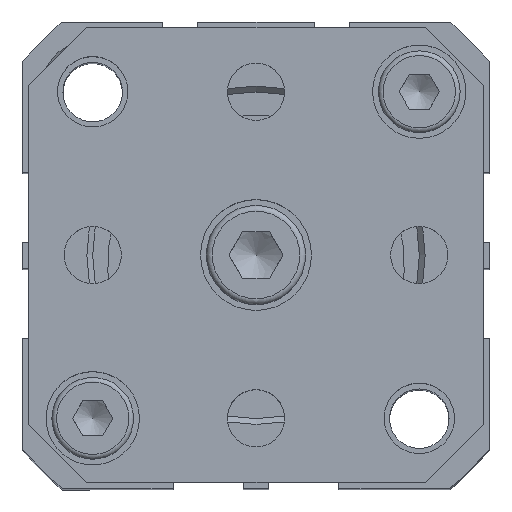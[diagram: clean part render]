
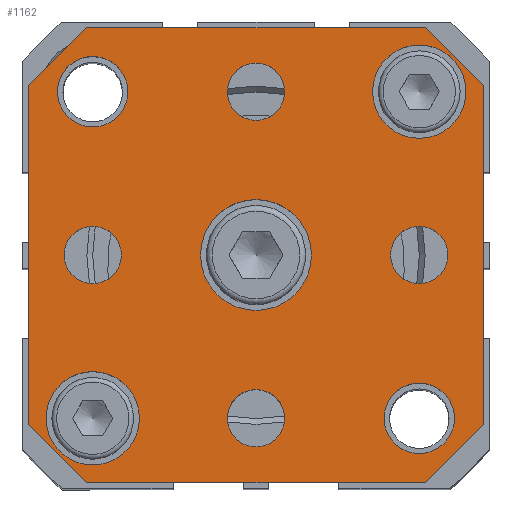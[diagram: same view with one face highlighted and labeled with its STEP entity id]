
A CAD part, top view. The second image highlights one B-rep face of the part: STEP entity #1162.
In plain terms, the highlighted planar face has unit normal (0, 0, 1).
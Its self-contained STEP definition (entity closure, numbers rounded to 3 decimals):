
#464=CARTESIAN_POINT('',(-12.524,-11.716,85.2));
#465=VERTEX_POINT('',#464);
#466=CARTESIAN_POINT('',(-16.524,-11.716,85.2));
#467=DIRECTION('',(0.0,0.0,-1.0));
#468=DIRECTION('',(1.0,0.0,0.0));
#469=AXIS2_PLACEMENT_3D('',#466,#467,#468);
#470=CIRCLE('',#469,4.0);
#471=EDGE_CURVE('',#465,#465,#470,.T.);
#566=CARTESIAN_POINT('',(15.476,16.284,85.2));
#567=VERTEX_POINT('',#566);
#568=CARTESIAN_POINT('',(11.476,16.284,85.2));
#569=DIRECTION('',(0.0,0.0,-1.0));
#570=DIRECTION('',(1.0,0.0,0.0));
#571=AXIS2_PLACEMENT_3D('',#568,#569,#570);
#572=CIRCLE('',#571,4.0);
#573=EDGE_CURVE('',#567,#567,#572,.T.);
#651=CARTESIAN_POINT('',(13.934,2.284,85.2));
#652=VERTEX_POINT('',#651);
#653=CARTESIAN_POINT('',(11.476,2.284,85.2));
#654=DIRECTION('',(0.0,0.0,-1.0));
#655=DIRECTION('',(1.0,0.0,0.0));
#656=AXIS2_PLACEMENT_3D('',#653,#654,#655);
#657=CIRCLE('',#656,2.459);
#658=EDGE_CURVE('',#652,#652,#657,.T.);
#692=CARTESIAN_POINT('',(-0.066,-11.716,85.2));
#693=VERTEX_POINT('',#692);
#694=CARTESIAN_POINT('',(-2.524,-11.716,85.2));
#695=DIRECTION('',(0.0,0.0,-1.0));
#696=DIRECTION('',(1.0,0.0,0.0));
#697=AXIS2_PLACEMENT_3D('',#694,#695,#696);
#698=CIRCLE('',#697,2.459);
#699=EDGE_CURVE('',#693,#693,#698,.T.);
#733=CARTESIAN_POINT('',(-14.066,2.284,85.2));
#734=VERTEX_POINT('',#733);
#735=CARTESIAN_POINT('',(-16.524,2.284,85.2));
#736=DIRECTION('',(0.0,0.0,-1.0));
#737=DIRECTION('',(1.0,0.0,0.0));
#738=AXIS2_PLACEMENT_3D('',#735,#736,#737);
#739=CIRCLE('',#738,2.459);
#740=EDGE_CURVE('',#734,#734,#739,.T.);
#774=CARTESIAN_POINT('',(-0.066,16.284,85.2));
#775=VERTEX_POINT('',#774);
#776=CARTESIAN_POINT('',(-2.524,16.284,85.2));
#777=DIRECTION('',(0.0,0.0,-1.0));
#778=DIRECTION('',(1.0,0.0,0.0));
#779=AXIS2_PLACEMENT_3D('',#776,#777,#778);
#780=CIRCLE('',#779,2.459);
#781=EDGE_CURVE('',#775,#775,#780,.T.);
#840=CARTESIAN_POINT('',(2.226,2.284,85.2));
#841=VERTEX_POINT('',#840);
#842=CARTESIAN_POINT('',(-2.524,2.284,85.2));
#843=DIRECTION('',(0.0,0.0,-1.0));
#844=DIRECTION('',(1.0,0.0,0.0));
#845=AXIS2_PLACEMENT_3D('',#842,#843,#844);
#846=CIRCLE('',#845,4.75);
#847=EDGE_CURVE('',#841,#841,#846,.T.);
#893=CARTESIAN_POINT('',(14.495,-11.716,85.2));
#894=VERTEX_POINT('',#893);
#895=CARTESIAN_POINT('',(11.476,-11.716,85.2));
#896=DIRECTION('',(0.0,0.0,-1.0));
#897=DIRECTION('',(-1.0,0.0,0.0));
#898=AXIS2_PLACEMENT_3D('',#895,#896,#897);
#899=CIRCLE('',#898,3.019);
#900=EDGE_CURVE('',#894,#894,#899,.T.);
#913=CARTESIAN_POINT('',(-13.505,16.284,85.2));
#914=VERTEX_POINT('',#913);
#915=CARTESIAN_POINT('',(-16.524,16.284,85.2));
#916=DIRECTION('',(0.0,0.0,-1.0));
#917=DIRECTION('',(-1.0,0.0,0.0));
#918=AXIS2_PLACEMENT_3D('',#915,#916,#917);
#919=CIRCLE('',#918,3.019);
#920=EDGE_CURVE('',#914,#914,#919,.T.);
#933=CARTESIAN_POINT('',(-17.024,21.784,85.2));
#934=VERTEX_POINT('',#933);
#935=CARTESIAN_POINT('',(11.976,21.784,85.2));
#936=VERTEX_POINT('',#935);
#937=CARTESIAN_POINT('',(-17.024,21.784,85.2));
#938=DIRECTION('',(1.0,0.0,0.0));
#939=VECTOR('',#938,29.);
#940=LINE('',#937,#939);
#941=EDGE_CURVE('',#934,#936,#940,.T.);
#964=CARTESIAN_POINT('',(16.976,16.784,85.2));
#965=VERTEX_POINT('',#964);
#966=CARTESIAN_POINT('',(11.976,21.784,85.2));
#967=DIRECTION('',(0.707,-0.707,0.0));
#968=VECTOR('',#967,7.071);
#969=LINE('',#966,#968);
#970=EDGE_CURVE('',#936,#965,#969,.T.);
#988=CARTESIAN_POINT('',(16.976,-12.216,85.2));
#989=VERTEX_POINT('',#988);
#990=CARTESIAN_POINT('',(16.976,16.784,85.2));
#991=DIRECTION('',(0.0,-1.0,0.0));
#992=VECTOR('',#991,29.);
#993=LINE('',#990,#992);
#994=EDGE_CURVE('',#965,#989,#993,.T.);
#1012=CARTESIAN_POINT('',(11.976,-17.216,85.2));
#1013=VERTEX_POINT('',#1012);
#1014=CARTESIAN_POINT('',(16.976,-12.216,85.2));
#1015=DIRECTION('',(-0.707,-0.707,0.0));
#1016=VECTOR('',#1015,7.071);
#1017=LINE('',#1014,#1016);
#1018=EDGE_CURVE('',#989,#1013,#1017,.T.);
#1036=CARTESIAN_POINT('',(-17.024,-17.216,85.2));
#1037=VERTEX_POINT('',#1036);
#1038=CARTESIAN_POINT('',(11.976,-17.216,85.2));
#1039=DIRECTION('',(-1.0,0.0,0.0));
#1040=VECTOR('',#1039,29.);
#1041=LINE('',#1038,#1040);
#1042=EDGE_CURVE('',#1013,#1037,#1041,.T.);
#1060=CARTESIAN_POINT('',(-22.024,-12.216,85.2));
#1061=VERTEX_POINT('',#1060);
#1062=CARTESIAN_POINT('',(-17.024,-17.216,85.2));
#1063=DIRECTION('',(-0.707,0.707,0.0));
#1064=VECTOR('',#1063,7.071);
#1065=LINE('',#1062,#1064);
#1066=EDGE_CURVE('',#1037,#1061,#1065,.T.);
#1084=CARTESIAN_POINT('',(-22.024,16.784,85.2));
#1085=VERTEX_POINT('',#1084);
#1086=CARTESIAN_POINT('',(-22.024,-12.216,85.2));
#1087=DIRECTION('',(0.0,1.0,0.0));
#1088=VECTOR('',#1087,29.);
#1089=LINE('',#1086,#1088);
#1090=EDGE_CURVE('',#1061,#1085,#1089,.T.);
#1108=CARTESIAN_POINT('',(-22.024,16.784,85.2));
#1109=DIRECTION('',(0.707,0.707,0.0));
#1110=VECTOR('',#1109,7.071);
#1111=LINE('',#1108,#1110);
#1112=EDGE_CURVE('',#1085,#934,#1111,.T.);
#1120=CARTESIAN_POINT('',(-2.524,2.284,85.2));
#1121=DIRECTION('',(0.0,0.0,1.0));
#1122=DIRECTION('',(1.0,0.0,0.0));
#1123=AXIS2_PLACEMENT_3D('',#1120,#1121,#1122);
#1124=PLANE('',#1123);
#1125=ORIENTED_EDGE('',*,*,#941,.F.);
#1126=ORIENTED_EDGE('',*,*,#1112,.F.);
#1127=ORIENTED_EDGE('',*,*,#1090,.F.);
#1128=ORIENTED_EDGE('',*,*,#1066,.F.);
#1129=ORIENTED_EDGE('',*,*,#1042,.F.);
#1130=ORIENTED_EDGE('',*,*,#1018,.F.);
#1131=ORIENTED_EDGE('',*,*,#994,.F.);
#1132=ORIENTED_EDGE('',*,*,#970,.F.);
#1133=EDGE_LOOP('',(#1125,#1126,#1127,#1128,#1129,#1130,#1131,#1132));
#1134=FACE_OUTER_BOUND('',#1133,.T.);
#1135=ORIENTED_EDGE('',*,*,#471,.T.);
#1136=EDGE_LOOP('',(#1135));
#1137=FACE_BOUND('',#1136,.T.);
#1138=ORIENTED_EDGE('',*,*,#573,.T.);
#1139=EDGE_LOOP('',(#1138));
#1140=FACE_BOUND('',#1139,.T.);
#1141=ORIENTED_EDGE('',*,*,#658,.T.);
#1142=EDGE_LOOP('',(#1141));
#1143=FACE_BOUND('',#1142,.T.);
#1144=ORIENTED_EDGE('',*,*,#699,.T.);
#1145=EDGE_LOOP('',(#1144));
#1146=FACE_BOUND('',#1145,.T.);
#1147=ORIENTED_EDGE('',*,*,#740,.T.);
#1148=EDGE_LOOP('',(#1147));
#1149=FACE_BOUND('',#1148,.T.);
#1150=ORIENTED_EDGE('',*,*,#781,.T.);
#1151=EDGE_LOOP('',(#1150));
#1152=FACE_BOUND('',#1151,.T.);
#1153=ORIENTED_EDGE('',*,*,#847,.T.);
#1154=EDGE_LOOP('',(#1153));
#1155=FACE_BOUND('',#1154,.T.);
#1156=ORIENTED_EDGE('',*,*,#900,.T.);
#1157=EDGE_LOOP('',(#1156));
#1158=FACE_BOUND('',#1157,.T.);
#1159=ORIENTED_EDGE('',*,*,#920,.T.);
#1160=EDGE_LOOP('',(#1159));
#1161=FACE_BOUND('',#1160,.T.);
#1162=ADVANCED_FACE('',(#1134,#1137,#1140,#1143,#1146,#1149,#1152,#1155,#1158,#1161),#1124,.T.);
